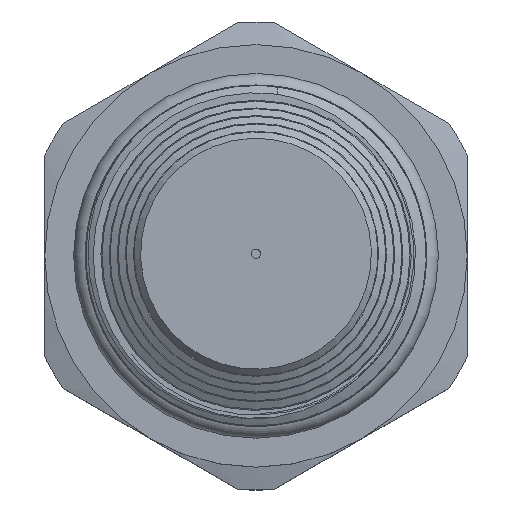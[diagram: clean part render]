
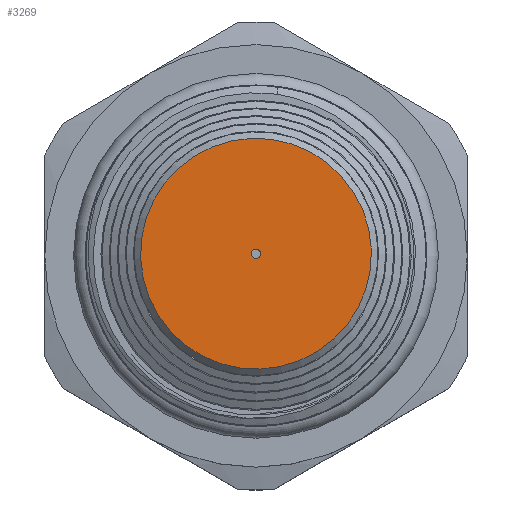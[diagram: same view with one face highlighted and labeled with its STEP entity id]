
A CAD part, top view. The second image highlights one B-rep face of the part: STEP entity #3269.
In plain terms, the highlighted planar face has unit normal (0, 0, 1).
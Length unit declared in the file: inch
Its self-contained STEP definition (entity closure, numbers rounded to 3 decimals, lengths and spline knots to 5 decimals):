
#68=FACE_BOUND('',#582,.T.);
#122=PLANE('',#3499);
#386=FACE_OUTER_BOUND('',#581,.T.);
#581=EDGE_LOOP('',(#2231));
#582=EDGE_LOOP('',(#2232,#2233));
#826=CIRCLE('',#3489,0.018);
#827=CIRCLE('',#3490,0.018);
#829=CIRCLE('',#3493,0.444);
#1383=VERTEX_POINT('',#5261);
#1384=VERTEX_POINT('',#5262);
#1386=VERTEX_POINT('',#5269);
#1725=EDGE_CURVE('',#1383,#1384,#826,.T.);
#1726=EDGE_CURVE('',#1384,#1383,#827,.T.);
#1729=EDGE_CURVE('',#1386,#1386,#829,.T.);
#2231=ORIENTED_EDGE('',*,*,#1729,.F.);
#2232=ORIENTED_EDGE('',*,*,#1725,.T.);
#2233=ORIENTED_EDGE('',*,*,#1726,.T.);
#3269=ADVANCED_FACE('',(#386,#68),#122,.T.);
#3489=AXIS2_PLACEMENT_3D('',#5263,#3945,#3946);
#3490=AXIS2_PLACEMENT_3D('',#5264,#3947,#3948);
#3493=AXIS2_PLACEMENT_3D('',#5270,#3954,#3955);
#3499=AXIS2_PLACEMENT_3D('',#5282,#3968,#3969);
#3945=DIRECTION('center_axis',(0.,0.,
-1.));
#3946=DIRECTION('ref_axis',(0.845,0.534,0.));
#3947=DIRECTION('center_axis',(0.,0.,
-1.));
#3948=DIRECTION('ref_axis',(0.845,0.534,0.));
#3954=DIRECTION('center_axis',(0.,0.,
-1.));
#3955=DIRECTION('ref_axis',(0.534,-0.845,0.));
#3968=DIRECTION('center_axis',(0.,0.,
1.));
#3969=DIRECTION('ref_axis',(0.845,0.534,0.));
#5261=CARTESIAN_POINT('',(0.01521,0.00962,5.213));
#5262=CARTESIAN_POINT('',(-0.01521,-0.00962,5.213));
#5263=CARTESIAN_POINT('Origin',(0.,0.,
5.213));
#5264=CARTESIAN_POINT('Origin',(0.,0.,
5.213));
#5269=CARTESIAN_POINT('',(-0.2373,0.37526,5.213));
#5270=CARTESIAN_POINT('Origin',(0.,0.,
5.213));
#5282=CARTESIAN_POINT('Origin',(0.,0.,
5.213));
